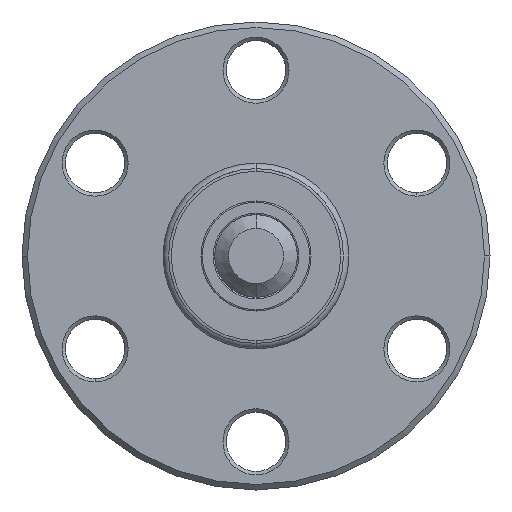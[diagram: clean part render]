
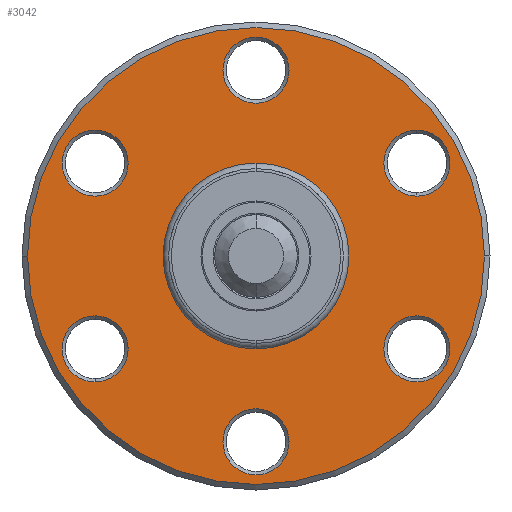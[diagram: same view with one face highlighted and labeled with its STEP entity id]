
A CAD part, left-side view. The second image highlights one B-rep face of the part: STEP entity #3042.
In plain terms, the highlighted planar face has unit normal (-1, 0, 0).
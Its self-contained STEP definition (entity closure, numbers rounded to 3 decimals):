
#777=CARTESIAN_POINT('',(0.,-16.6,0.));
#778=VERTEX_POINT('',#777);
#787=CARTESIAN_POINT('',(0.,16.6,0.));
#788=VERTEX_POINT('',#787);
#789=CARTESIAN_POINT('',(0.,0.,0.0));
#790=DIRECTION('',(1.0,0.0,0.0));
#791=DIRECTION('',(0.0,-1.0,0.0));
#792=AXIS2_PLACEMENT_3D('',#789,#790,#791);
#793=CIRCLE('',#792,16.6);
#794=EDGE_CURVE('',#778,#788,#793,.T.);
#1380=CARTESIAN_POINT('',(0.,11.691,-9.15));
#1381=VERTEX_POINT('',#1380);
#1395=CARTESIAN_POINT('',(0.,11.691,-4.35));
#1396=VERTEX_POINT('',#1395);
#1403=CARTESIAN_POINT('',(0.,11.691,-6.75));
#1404=DIRECTION('',(-1.0,0.0,0.0));
#1405=DIRECTION('',(0.0,0.0,-1.0));
#1406=AXIS2_PLACEMENT_3D('',#1403,#1404,#1405);
#1407=CIRCLE('',#1406,2.4);
#1408=EDGE_CURVE('',#1396,#1381,#1407,.T.);
#1519=CARTESIAN_POINT('',(0.,13.77,5.55));
#1520=VERTEX_POINT('',#1519);
#1534=CARTESIAN_POINT('',(0.,9.613,7.95));
#1535=VERTEX_POINT('',#1534);
#1542=CARTESIAN_POINT('',(0.,11.691,6.75));
#1543=DIRECTION('',(-1.,0.,0.));
#1544=DIRECTION('',(0.,0.866,-0.5));
#1545=AXIS2_PLACEMENT_3D('',#1542,#1543,#1544);
#1546=CIRCLE('',#1545,2.4);
#1547=EDGE_CURVE('',#1535,#1520,#1546,.T.);
#1658=CARTESIAN_POINT('',(0.,2.078,14.7));
#1659=VERTEX_POINT('',#1658);
#1673=CARTESIAN_POINT('',(0.,-2.078,12.3));
#1674=VERTEX_POINT('',#1673);
#1681=CARTESIAN_POINT('',(0.,0.,13.5));
#1682=DIRECTION('',(-1.,0.,0.));
#1683=DIRECTION('',(0.,0.866,0.5));
#1684=AXIS2_PLACEMENT_3D('',#1681,#1682,#1683);
#1685=CIRCLE('',#1684,2.4);
#1686=EDGE_CURVE('',#1674,#1659,#1685,.T.);
#1797=CARTESIAN_POINT('',(0.,-11.691,9.15));
#1798=VERTEX_POINT('',#1797);
#1812=CARTESIAN_POINT('',(0.,-11.691,4.35));
#1813=VERTEX_POINT('',#1812);
#1820=CARTESIAN_POINT('',(0.,-11.691,6.75));
#1821=DIRECTION('',(-1.0,0.0,0.0));
#1822=DIRECTION('',(0.0,0.0,1.0));
#1823=AXIS2_PLACEMENT_3D('',#1820,#1821,#1822);
#1824=CIRCLE('',#1823,2.4);
#1825=EDGE_CURVE('',#1813,#1798,#1824,.T.);
#1936=CARTESIAN_POINT('',(0.,-13.77,-5.55));
#1937=VERTEX_POINT('',#1936);
#1951=CARTESIAN_POINT('',(0.,-9.613,-7.95));
#1952=VERTEX_POINT('',#1951);
#1959=CARTESIAN_POINT('',(0.,-11.691,-6.75));
#1960=DIRECTION('',(-1.,0.,0.));
#1961=DIRECTION('',(0.,-0.866,0.5));
#1962=AXIS2_PLACEMENT_3D('',#1959,#1960,#1961);
#1963=CIRCLE('',#1962,2.4);
#1964=EDGE_CURVE('',#1952,#1937,#1963,.T.);
#2075=CARTESIAN_POINT('',(0.,-2.078,-14.7));
#2076=VERTEX_POINT('',#2075);
#2090=CARTESIAN_POINT('',(0.,2.078,-12.3));
#2091=VERTEX_POINT('',#2090);
#2098=CARTESIAN_POINT('',(0.,0.,-13.5));
#2099=DIRECTION('',(-1.0,0.,0.));
#2100=DIRECTION('',(0.,-0.866,-0.5));
#2101=AXIS2_PLACEMENT_3D('',#2098,#2099,#2100);
#2102=CIRCLE('',#2101,2.4);
#2103=EDGE_CURVE('',#2091,#2076,#2102,.T.);
#2428=CARTESIAN_POINT('',(0.,-5.0,0.));
#2429=VERTEX_POINT('',#2428);
#2436=CARTESIAN_POINT('',(0.,0.,5.0));
#2437=VERTEX_POINT('',#2436);
#2438=CARTESIAN_POINT('',(0.0,0.,0.0));
#2439=DIRECTION('',(1.0,0.0,0.0));
#2440=DIRECTION('',(0.0,0.0,-1.0));
#2441=AXIS2_PLACEMENT_3D('',#2438,#2439,#2440);
#2442=CIRCLE('',#2441,5.0);
#2443=EDGE_CURVE('',#2437,#2429,#2442,.T.);
#2445=CARTESIAN_POINT('',(0.,5.0,0.));
#2446=VERTEX_POINT('',#2445);
#2447=CARTESIAN_POINT('',(0.0,0.,0.0));
#2448=DIRECTION('',(1.0,0.0,0.0));
#2449=DIRECTION('',(0.0,0.0,-1.0));
#2450=AXIS2_PLACEMENT_3D('',#2447,#2448,#2449);
#2451=CIRCLE('',#2450,5.0);
#2452=EDGE_CURVE('',#2446,#2437,#2451,.T.);
#2730=CARTESIAN_POINT('',(0.0,0.,0.0));
#2731=DIRECTION('',(1.0,0.0,0.0));
#2732=DIRECTION('',(0.0,0.0,-1.0));
#2733=AXIS2_PLACEMENT_3D('',#2730,#2731,#2732);
#2734=CIRCLE('',#2733,5.0);
#2735=EDGE_CURVE('',#2429,#2446,#2734,.T.);
#2923=CARTESIAN_POINT('',(0.,0.,-13.5));
#2924=DIRECTION('',(-1.0,0.,0.));
#2925=DIRECTION('',(0.,-0.866,-0.5));
#2926=AXIS2_PLACEMENT_3D('',#2923,#2924,#2925);
#2927=CIRCLE('',#2926,2.4);
#2928=EDGE_CURVE('',#2076,#2091,#2927,.T.);
#2968=CARTESIAN_POINT('',(0.0,8.5,0.0));
#2969=DIRECTION('',(-1.0,0.0,0.0));
#2970=DIRECTION('',(0.0,0.0,1.0));
#2971=AXIS2_PLACEMENT_3D('',#2968,#2969,#2970);
#2972=PLANE('',#2971);
#2973=CARTESIAN_POINT('',(0.,0.,0.0));
#2974=DIRECTION('',(1.0,0.0,0.0));
#2975=DIRECTION('',(0.0,-1.0,0.0));
#2976=AXIS2_PLACEMENT_3D('',#2973,#2974,#2975);
#2977=CIRCLE('',#2976,16.6);
#2978=EDGE_CURVE('',#788,#778,#2977,.T.);
#2979=ORIENTED_EDGE('',*,*,#2978,.F.);
#2980=ORIENTED_EDGE('',*,*,#794,.F.);
#2981=EDGE_LOOP('',(#2979,#2980));
#2982=FACE_OUTER_BOUND('',#2981,.T.);
#2983=ORIENTED_EDGE('',*,*,#2443,.T.);
#2984=ORIENTED_EDGE('',*,*,#2735,.T.);
#2985=ORIENTED_EDGE('',*,*,#2452,.T.);
#2986=EDGE_LOOP('',(#2983,#2984,#2985));
#2987=FACE_BOUND('',#2986,.T.);
#2988=ORIENTED_EDGE('',*,*,#1964,.F.);
#2989=CARTESIAN_POINT('',(0.,-11.691,-6.75));
#2990=DIRECTION('',(-1.,0.,0.));
#2991=DIRECTION('',(0.,-0.866,0.5));
#2992=AXIS2_PLACEMENT_3D('',#2989,#2990,#2991);
#2993=CIRCLE('',#2992,2.4);
#2994=EDGE_CURVE('',#1937,#1952,#2993,.T.);
#2995=ORIENTED_EDGE('',*,*,#2994,.F.);
#2996=EDGE_LOOP('',(#2988,#2995));
#2997=FACE_BOUND('',#2996,.T.);
#2998=ORIENTED_EDGE('',*,*,#1686,.F.);
#2999=CARTESIAN_POINT('',(0.,0.,13.5));
#3000=DIRECTION('',(-1.,0.,0.));
#3001=DIRECTION('',(0.,0.866,0.5));
#3002=AXIS2_PLACEMENT_3D('',#2999,#3000,#3001);
#3003=CIRCLE('',#3002,2.4);
#3004=EDGE_CURVE('',#1659,#1674,#3003,.T.);
#3005=ORIENTED_EDGE('',*,*,#3004,.F.);
#3006=EDGE_LOOP('',(#2998,#3005));
#3007=FACE_BOUND('',#3006,.T.);
#3008=ORIENTED_EDGE('',*,*,#1408,.F.);
#3009=CARTESIAN_POINT('',(0.,11.691,-6.75));
#3010=DIRECTION('',(-1.0,0.0,0.0));
#3011=DIRECTION('',(0.0,0.0,-1.0));
#3012=AXIS2_PLACEMENT_3D('',#3009,#3010,#3011);
#3013=CIRCLE('',#3012,2.4);
#3014=EDGE_CURVE('',#1381,#1396,#3013,.T.);
#3015=ORIENTED_EDGE('',*,*,#3014,.F.);
#3016=EDGE_LOOP('',(#3008,#3015));
#3017=FACE_BOUND('',#3016,.T.);
#3018=ORIENTED_EDGE('',*,*,#1547,.F.);
#3019=CARTESIAN_POINT('',(0.,11.691,6.75));
#3020=DIRECTION('',(-1.,0.,0.));
#3021=DIRECTION('',(0.,0.866,-0.5));
#3022=AXIS2_PLACEMENT_3D('',#3019,#3020,#3021);
#3023=CIRCLE('',#3022,2.4);
#3024=EDGE_CURVE('',#1520,#1535,#3023,.T.);
#3025=ORIENTED_EDGE('',*,*,#3024,.F.);
#3026=EDGE_LOOP('',(#3018,#3025));
#3027=FACE_BOUND('',#3026,.T.);
#3028=ORIENTED_EDGE('',*,*,#1825,.F.);
#3029=CARTESIAN_POINT('',(0.,-11.691,6.75));
#3030=DIRECTION('',(-1.0,0.0,0.0));
#3031=DIRECTION('',(0.0,0.0,1.0));
#3032=AXIS2_PLACEMENT_3D('',#3029,#3030,#3031);
#3033=CIRCLE('',#3032,2.4);
#3034=EDGE_CURVE('',#1798,#1813,#3033,.T.);
#3035=ORIENTED_EDGE('',*,*,#3034,.F.);
#3036=EDGE_LOOP('',(#3028,#3035));
#3037=FACE_BOUND('',#3036,.T.);
#3038=ORIENTED_EDGE('',*,*,#2103,.F.);
#3039=ORIENTED_EDGE('',*,*,#2928,.F.);
#3040=EDGE_LOOP('',(#3038,#3039));
#3041=FACE_BOUND('',#3040,.T.);
#3042=ADVANCED_FACE('',(#2982,#2987,#2997,#3007,#3017,#3027,#3037,#3041),#2972,.T.);
